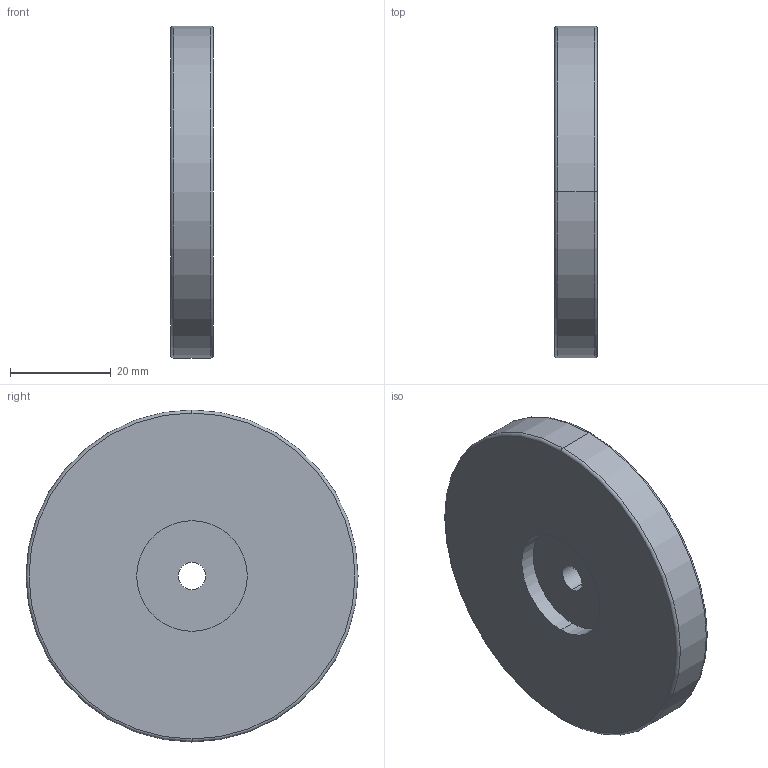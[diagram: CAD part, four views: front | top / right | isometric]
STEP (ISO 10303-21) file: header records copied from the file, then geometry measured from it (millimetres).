
FILE_DESCRIPTION (( 'STEP AP214' ), '1' );
FILE_NAME ('51.4-ND-66-WS.step', '2020-11-27T13:43:35', ( '' ), ( '' ), 'SwSTEP 2.0', 'SolidWorks 2019', '' );
FILE_SCHEMA (( 'AUTOMOTIVE_DESIGN' ));
Length unit declared in the file: millimetre
Products named in the file (1): 51.4-ND-66-WS
Bounding box: 8.5 x 66 x 66 mm (x, y, z)
Volume: 27651.1 mm3; surface area: 8777.1 mm2
Topology: 1 solids, 1 shells, 16 faces, 32 edges, 20 vertices
Faces by surface type: cylinder 8, torus 4, plane 4
Entity records: 631 total; most frequent: DIRECTION 90, CARTESIAN_POINT 69, ORIENTED_EDGE 64, AXIS2_PLACEMENT_3D 41, EDGE_CURVE 32, CIRCLE 24, VERTEX_POINT 20, EDGE_LOOP 20
